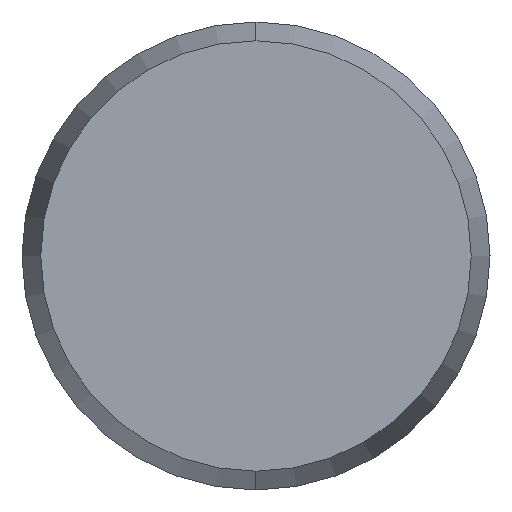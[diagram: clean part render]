
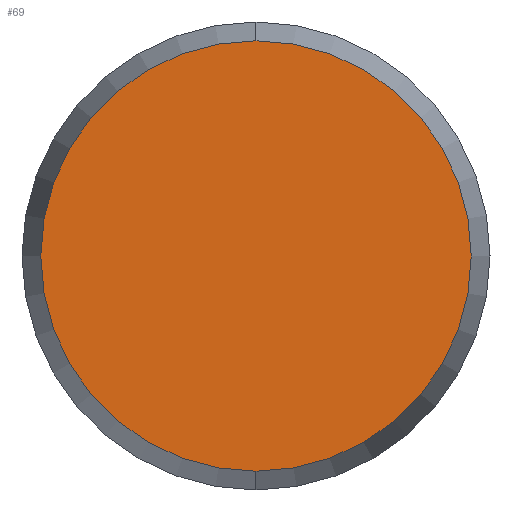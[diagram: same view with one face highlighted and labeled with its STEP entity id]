
A CAD part, left-side view. The second image highlights one B-rep face of the part: STEP entity #69.
In plain terms, the highlighted planar face has unit normal (-1, 0, 0).
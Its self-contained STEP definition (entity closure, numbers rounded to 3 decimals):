
#2 = EDGE_CURVE ( 'NONE', #21, #7, #36, .T. ) ;
#7 = VERTEX_POINT ( 'NONE', #207 ) ;
#21 = VERTEX_POINT ( 'NONE', #237 ) ;
#36 = CIRCLE ( 'NONE', #40, 4.598 ) ;
#37 = DIRECTION ( 'NONE',  ( 0., 0., -1. ) ) ;
#38 = DIRECTION ( 'NONE',  ( 1., 0., 0. ) ) ;
#39 = CARTESIAN_POINT ( 'NONE',  ( -27.5, 0., 0. ) ) ;
#40 = AXIS2_PLACEMENT_3D ( 'NONE', #39, #38, #37 ) ;
#65 = EDGE_CURVE ( 'NONE', #7, #21, #114, .T. ) ;
#68 = EDGE_LOOP ( 'NONE', ( #70, #71 ) ) ;
#69 = ADVANCED_FACE ( 'NONE', ( #106 ), #105, .F. ) ;
#70 = ORIENTED_EDGE ( 'NONE', *, *, #2, .F. ) ;
#71 = ORIENTED_EDGE ( 'NONE', *, *, #65, .F. ) ;
#100 = DIRECTION ( 'NONE',  ( 0., 0., -1. ) ) ;
#101 = DIRECTION ( 'NONE',  ( 1., 0., 0. ) ) ;
#102 = CARTESIAN_POINT ( 'NONE',  ( -27.5, 0., 0. ) ) ;
#104 = AXIS2_PLACEMENT_3D ( 'NONE', #102, #101, #100 ) ;
#105 = PLANE ( 'NONE',  #104 ) ;
#106 = FACE_OUTER_BOUND ( 'NONE', #68, .T. ) ;
#107 = DIRECTION ( 'NONE',  ( 0., 0., -1. ) ) ;
#108 = DIRECTION ( 'NONE',  ( 1., 0., 0. ) ) ;
#109 = CARTESIAN_POINT ( 'NONE',  ( -27.5, 0., 0. ) ) ;
#110 = AXIS2_PLACEMENT_3D ( 'NONE', #109, #108, #107 ) ;
#114 = CIRCLE ( 'NONE', #110, 4.598 ) ;
#207 = CARTESIAN_POINT ( 'NONE',  ( -27.5, 0., -4.598 ) ) ;
#237 = CARTESIAN_POINT ( 'NONE',  ( -27.5, 0., 4.598 ) ) ;
